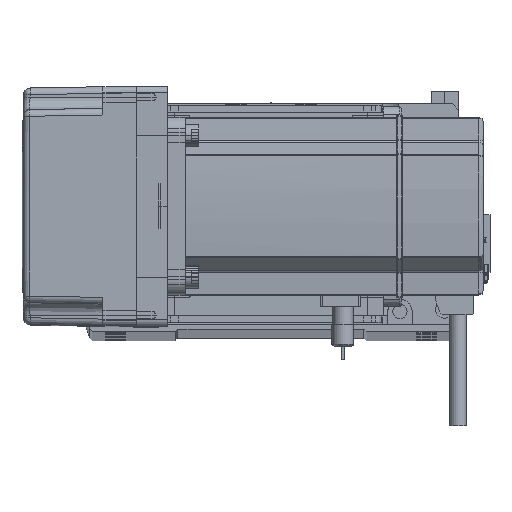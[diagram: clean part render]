
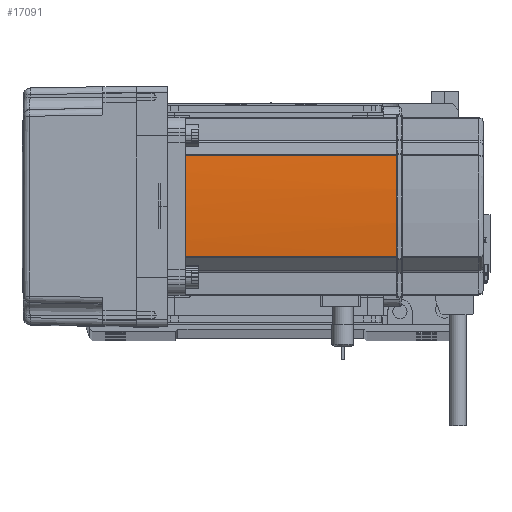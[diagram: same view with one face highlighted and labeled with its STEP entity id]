
A CAD part, top view. The second image highlights one B-rep face of the part: STEP entity #17091.
In plain terms, the highlighted cylindrical face has radius 270 mm (diameter 540 mm), a partial arc.
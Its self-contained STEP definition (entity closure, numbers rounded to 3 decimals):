
#1984 = VERTEX_POINT ( 'NONE', #30310 ) ;
#2311 = VERTEX_POINT ( 'NONE', #15744 ) ;
#3648 = EDGE_CURVE ( 'NONE', #1984, #44415, #52466, .T. ) ;
#4389 = CARTESIAN_POINT ( 'NONE',  ( 40., -0.127, 134. ) ) ;
#4949 = EDGE_LOOP ( 'NONE', ( #40412, #40828, #37183, #32597, #61746, #26502 ) ) ;
#5287 = CARTESIAN_POINT ( 'NONE',  ( -230., 0., 58. ) ) ;
#5303 = EDGE_CURVE ( 'NONE', #26246, #1984, #18414, .T. ) ;
#9221 = DIRECTION ( 'NONE',  ( -1., 0., 0. ) ) ;
#9431 = CARTESIAN_POINT ( 'NONE',  ( -230., 0., 134. ) ) ;
#9682 = EDGE_CURVE ( 'NONE', #61004, #44415, #38910, .T. ) ;
#13562 = EDGE_CURVE ( 'NONE', #61004, #2311, #29950, .T. ) ;
#15744 = CARTESIAN_POINT ( 'NONE',  ( 39.042, 22.724, 134. ) ) ;
#16392 = AXIS2_PLACEMENT_3D ( 'NONE', #9431, #48895, #9221 ) ;
#17091 = ADVANCED_FACE ( 'NONE', ( #59983 ), #22435, .T. ) ;
#17135 = VECTOR ( 'NONE', #52777, 1000. ) ;
#18414 = CIRCLE ( 'NONE', #33061, 270. ) ;
#19403 = AXIS2_PLACEMENT_3D ( 'NONE', #36964, #32247, #47078 ) ;
#19714 = DIRECTION ( 'NONE',  ( 0., 0., -1. ) ) ;
#19859 = CARTESIAN_POINT ( 'NONE',  ( 40., 0.042, 134. ) ) ;
#22435 = CYLINDRICAL_SURFACE ( 'NONE', #36057, 270. ) ;
#23158 = VECTOR ( 'NONE', #55441, 1000. ) ;
#24807 = CARTESIAN_POINT ( 'NONE',  ( 40., -0.127, 134. ) ) ;
#25427 = CARTESIAN_POINT ( 'NONE',  ( 40., 0.127, 134. ) ) ;
#26246 = VERTEX_POINT ( 'NONE', #4389 ) ;
#26502 = ORIENTED_EDGE ( 'NONE', *, *, #5303, .T. ) ;
#26715 = EDGE_CURVE ( 'NONE', #26246, #59423, #43879, .T. ) ;
#28982 = DIRECTION ( 'NONE',  ( 0., 0., -1. ) ) ;
#29081 = CARTESIAN_POINT ( 'NONE',  ( 40., 0.127, 134. ) ) ;
#29950 = LINE ( 'NONE', #43787, #23158 ) ;
#30310 = CARTESIAN_POINT ( 'NONE',  ( 39.042, -22.724, 134. ) ) ;
#30818 = DIRECTION ( 'NONE',  ( -1., 0., 0. ) ) ;
#31590 = CARTESIAN_POINT ( 'NONE',  ( 39.042, -22.724, 39. ) ) ;
#32247 = DIRECTION ( 'NONE',  ( 0., 0., -1. ) ) ;
#32597 = ORIENTED_EDGE ( 'NONE', *, *, #36410, .T. ) ;
#32877 = CARTESIAN_POINT ( 'NONE',  ( 39.042, 22.724, 39. ) ) ;
#33061 = AXIS2_PLACEMENT_3D ( 'NONE', #53443, #28982, #34093 ) ;
#34093 = DIRECTION ( 'NONE',  ( -1., 0., 0. ) ) ;
#36057 = AXIS2_PLACEMENT_3D ( 'NONE', #5287, #19714, #30818 ) ;
#36410 = EDGE_CURVE ( 'NONE', #2311, #59423, #50307, .T. ) ;
#36964 = CARTESIAN_POINT ( 'NONE',  ( -230., 0., 39. ) ) ;
#37183 = ORIENTED_EDGE ( 'NONE', *, *, #13562, .T. ) ;
#37928 = CARTESIAN_POINT ( 'NONE',  ( 39.042, -22.724, 58. ) ) ;
#38910 = CIRCLE ( 'NONE', #19403, 270. ) ;
#40412 = ORIENTED_EDGE ( 'NONE', *, *, #3648, .T. ) ;
#40828 = ORIENTED_EDGE ( 'NONE', *, *, #9682, .F. ) ;
#43787 = CARTESIAN_POINT ( 'NONE',  ( 39.042, 22.724, 58. ) ) ;
#43879 = B_SPLINE_CURVE_WITH_KNOTS ( 'NONE', 3,
 ( #24807, #49289, #19859, #25427 ),
 .UNSPECIFIED., .F., .F.,
 ( 4, 4 ),
 ( 0., 1. ),
 .UNSPECIFIED. ) ;
#44415 = VERTEX_POINT ( 'NONE', #31590 ) ;
#47078 = DIRECTION ( 'NONE',  ( -1., 0., 0. ) ) ;
#48895 = DIRECTION ( 'NONE',  ( 0., 0., -1. ) ) ;
#49289 = CARTESIAN_POINT ( 'NONE',  ( 40., -0.042, 134. ) ) ;
#50307 = CIRCLE ( 'NONE', #16392, 270. ) ;
#52466 = LINE ( 'NONE', #37928, #17135 ) ;
#52777 = DIRECTION ( 'NONE',  ( 0., 0., -1. ) ) ;
#53443 = CARTESIAN_POINT ( 'NONE',  ( -230., 0., 134. ) ) ;
#55441 = DIRECTION ( 'NONE',  ( 0., 0., 1. ) ) ;
#59423 = VERTEX_POINT ( 'NONE', #29081 ) ;
#59983 = FACE_OUTER_BOUND ( 'NONE', #4949, .T. ) ;
#61004 = VERTEX_POINT ( 'NONE', #32877 ) ;
#61746 = ORIENTED_EDGE ( 'NONE', *, *, #26715, .F. ) ;
